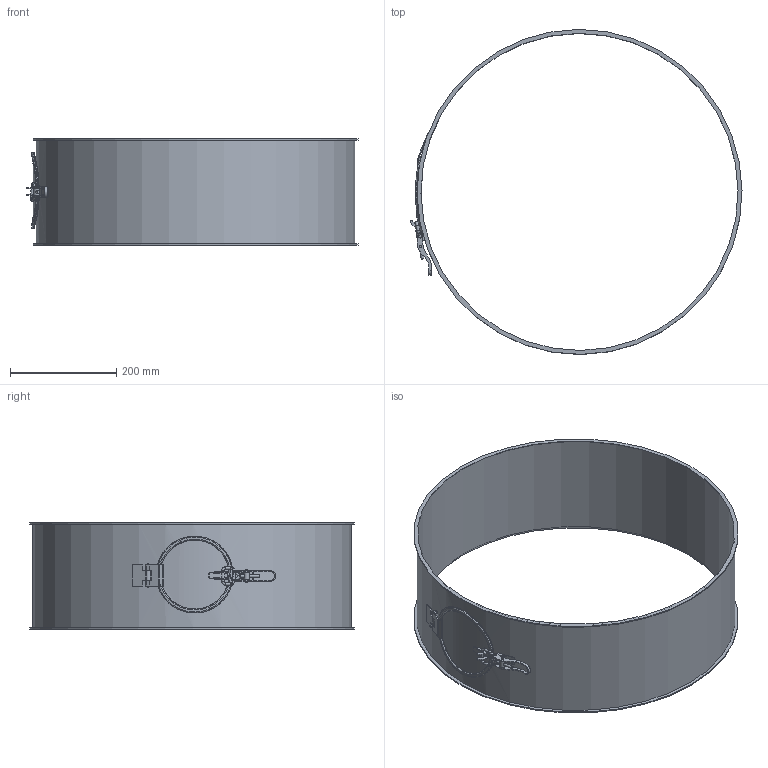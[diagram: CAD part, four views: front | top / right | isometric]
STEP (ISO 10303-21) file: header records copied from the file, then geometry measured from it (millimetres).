
FILE_DESCRIPTION((''),'2;1');
FILE_NAME('U:\Wolfgang\Marcel-3D\fertig\Kapitel 4\6011043.stp','2011-04-21T08:29:24',('TK1'),(''),'Autodesk Inventor 2010','Autodesk Inventor 2010','');
FILE_SCHEMA(('AUTOMOTIVE_DESIGN { 1 0 10303 214 1 1 1 1 }'));
Length unit declared in the file: millimetre
Products named in the file (15): 6011043 (Detailgenauigkeit1); 6011043-1; GelenkDeckel60b; GelenkDeckel1c; Deckel60; Deckel60b; GelenkDeckel35a; VerschlussDeckel60; dichtung60; Verschluss60; Verschluss60a; Verschluss1b; Verschluss1c; Verschluss1d; Verschluss1e
Assembly tree (15 placements, depth 3):
  6011043 (Detailgenauigkeit1)
    6011043-1
    GelenkDeckel60b
    GelenkDeckel1c
    Deckel60
      Deckel60b
      GelenkDeckel35a
      VerschlussDeckel60
      dichtung60
    Verschluss60
      Verschluss60a
      Verschluss1b
      Verschluss1c
      Verschluss1d  x2
      Verschluss1e
Bounding box: 626.23 x 612.98 x 200 mm (x, y, z)
Volume: 651196.3 mm3; surface area: 841565.5 mm2
Topology: 13 solids, 13 shells, 177 faces, 416 edges, 269 vertices
Faces by surface type: cylinder 81, plane 80, torus 9, bspline 5, sphere 2
Full cylindrical faces by diameter (mm): 2 x4, 4 x4, 5 x6, 6 x6, 6.2 x2, 10 x1, 115 x1, 130 x1, 135 x1, 145 x1, 598 x1, 601 x1, 613 x2
Entity records: 6667 total; most frequent: CARTESIAN_POINT 2410, DIRECTION 862, ORIENTED_EDGE 710, EDGE_CURVE 355, AXIS2_PLACEMENT_3D 341, VERTEX_POINT 252, EDGE_LOOP 241, VECTOR 180
